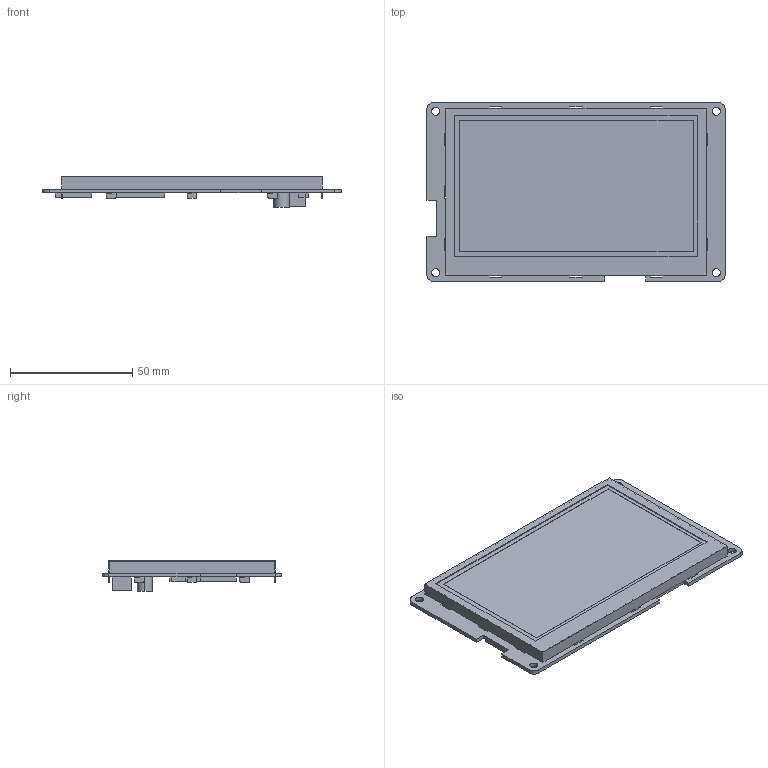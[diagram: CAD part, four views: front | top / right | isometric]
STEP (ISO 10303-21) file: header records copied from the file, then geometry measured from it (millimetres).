
FILE_DESCRIPTION((''),'2;1');
FILE_NAME('DMT48270T043-07WN','2021-09-09T',('Administrator'),(''),'PRO/ENGINEER BY PARAMETRIC TECHNOLOGY CORPORATION, 2011310','PRO/ENGINEER BY PARAMETRIC TECHNOLOGY CORPORATION, 2011310','');
FILE_SCHEMA(('CONFIG_CONTROL_DESIGN','SHAPE_APPEARANCE_LAYERS_GROUPS'));
Length unit declared in the file: millimetre
Products named in the file (1): DMT48270T043-07WN
Bounding box: 121.92 x 73.15 x 12.4 mm (x, y, z)
Volume: 37683.2 mm3; surface area: 38105.6 mm2
Topology: 1 solids, 1 shells, 260 faces, 753 edges, 494 vertices
Faces by surface type: plane 211, cylinder 49
Entity records: 10315 total; most frequent: CARTESIAN_POINT 1507, ORIENTED_EDGE 1506, DIRECTION 1371, EDGE_CURVE 753, VECTOR 655, LINE 655, VERTEX_POINT 494, AXIS2_PLACEMENT_3D 358
